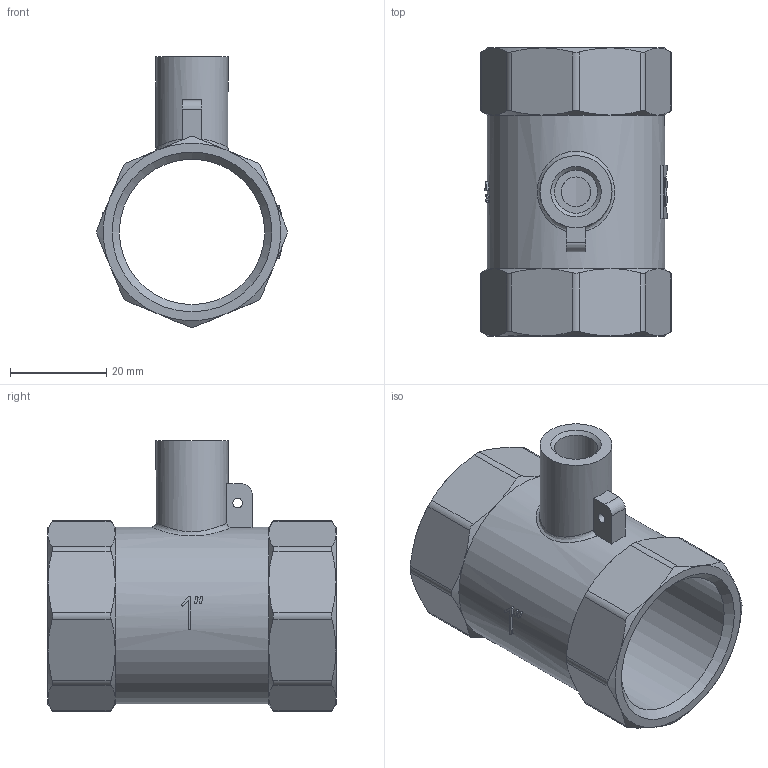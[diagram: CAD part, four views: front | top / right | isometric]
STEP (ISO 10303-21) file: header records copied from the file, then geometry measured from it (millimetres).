
FILE_DESCRIPTION(('STEP AP203'), '1');
FILE_NAME('ÂÐ.752243.018 - VTr.250.N.0006 - Òðîé. äëÿ ïîäêë. äàò÷. òåìï', '2024-06-27T11:51:29', ('Boss'), (''), 'C3D Converter', 'C3D Toolkit', '');
FILE_SCHEMA(('CONFIG_CONTROL_DESIGN'));
Length unit declared in the file: millimetre
Products named in the file (1): ВР.752243.018
Bounding box: 39.72 x 60 x 56.36 mm (x, y, z)
Volume: 25084.4 mm3; surface area: 14982 mm2
Topology: 1 solids, 1 shells, 143 faces, 367 edges, 233 vertices
Faces by surface type: plane 50, cone 35, cylinder 30, extrusion 27, bspline 1
Full cylindrical faces by diameter (mm): 2 x1, 6.2 x1, 9 x1, 15 x1, 30.292 x1, 37 x1
Entity records: 8122 total; most frequent: CARTESIAN_POINT 4986, ORIENTED_EDGE 714, DIRECTION 501, EDGE_CURVE 357, VERTEX_POINT 233, B_SPLINE_CURVE_WITH_KNOTS 185, AXIS2_PLACEMENT_3D 183, EDGE_LOOP 166
